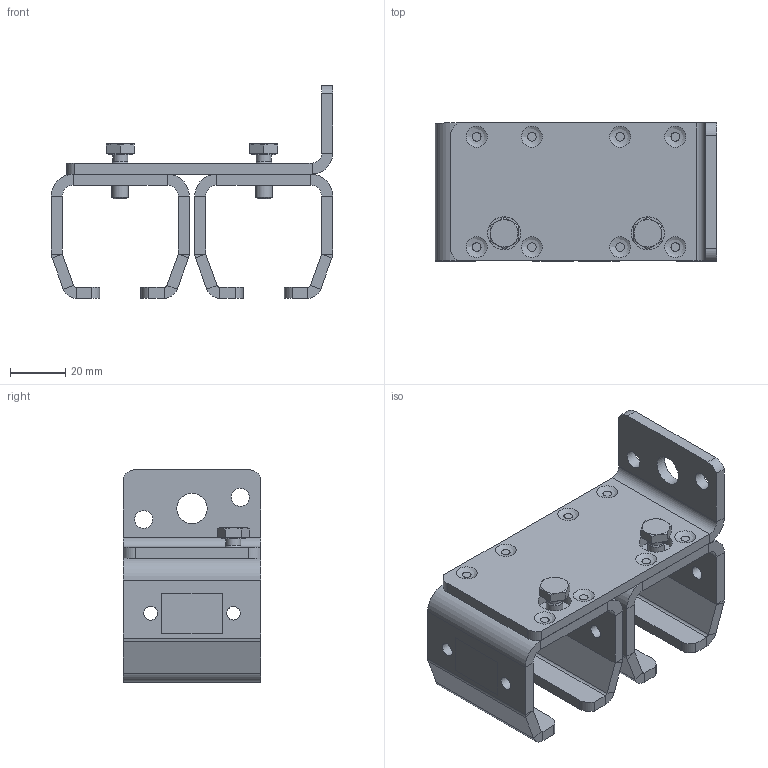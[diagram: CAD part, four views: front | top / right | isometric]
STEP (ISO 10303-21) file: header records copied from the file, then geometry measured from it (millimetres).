
FILE_DESCRIPTION(/* description */ ('Biegeteil mit Löchern'),/* implementation_level */ '2;1');
FILE_NAME(/* name */ 'Q:\sge-ma\Produktmanagement-STB\STB\Workspace\stp\010335640.stp',/* time_stamp */ '2015-07-09T13:50:49+02:00',/* author */ ('avschreier'),/* organization */ (''),/* preprocessor_version */ 'ST-DEVELOPER v15.6',/* originating_system */ 'Autodesk Inventor 2015',/* authorisation */ '');
FILE_SCHEMA (('CONFIG_CONTROL_DESIGN'));
Length unit declared in the file: millimetre
Products named in the file (4): 337000259; 335140010; DIN_EN_ISO_4017-M6x16_en; 010335640
Bounding box: 102 x 50 x 77 mm (x, y, z)
Volume: 81143 mm3; surface area: 46824.5 mm2
Topology: 5 solids, 5 shells, 245 faces, 533 edges, 322 vertices
Faces by surface type: plane 152, cylinder 61, bspline 16, cone 16
Full cylindrical faces by diameter (mm): 4.917 x6, 5 x6, 5.459 x2, 6 x2, 6.5 x2, 8.7 x2, 11 x1, 12 x2
Entity records: 4463 total; most frequent: CARTESIAN_POINT 1137, DIRECTION 692, ORIENTED_EDGE 614, EDGE_CURVE 307, AXIS2_PLACEMENT_3D 270, EDGE_LOOP 208, VERTEX_POINT 199, LINE 152
